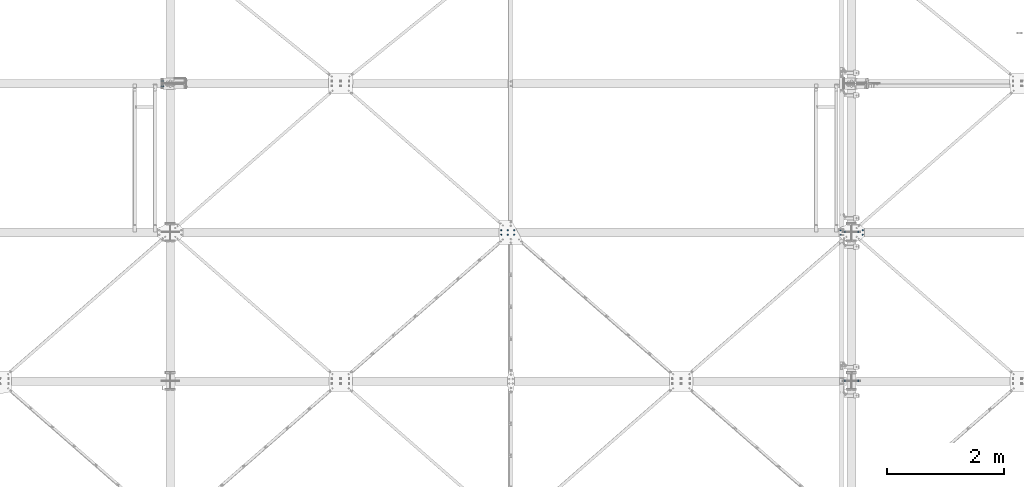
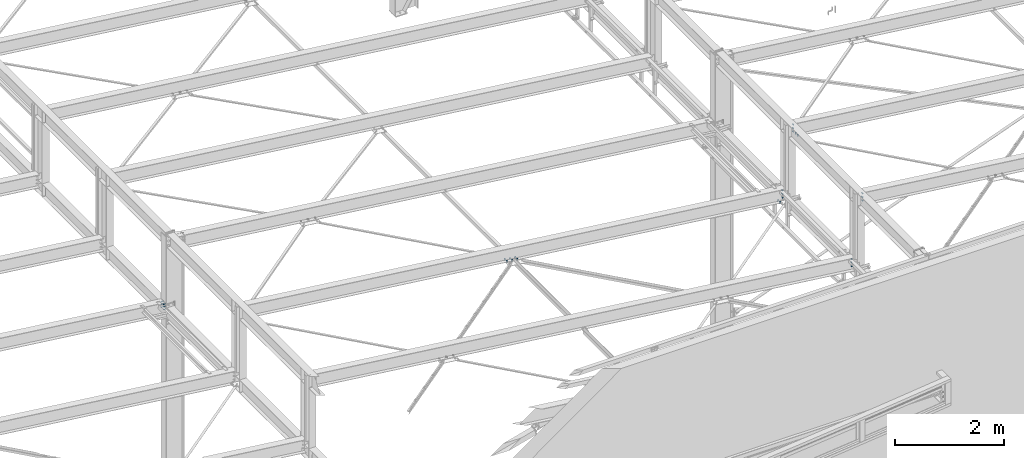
# One storey, part 112 of 3134: 8 mechanical fasteners, 5 elements without a shape of their own.
"""IFC2X3 building model written with IfcOpenShell, lengths in millimetres."""

from ifc_helpers import new_model, si_unit, frame, origin_with_axes, place, context, subcontext, project, spatial, faceted_brep, source, transform, mapped, material, type_object, element, aggregate, save


model = new_model("IFC2X3")

# Units and contexts
model_context = context("Model", 3, precision=1e-05, world=origin_with_axes())
body_context = subcontext(model_context, "Body", "Model", "MODEL_VIEW")
ifc_project = project(units=[si_unit("LENGTHUNIT", "METRE", prefix="MILLI"), si_unit("AREAUNIT", "SQUARE_METRE"), si_unit("VOLUMEUNIT", "CUBIC_METRE"), si_unit("MASSUNIT", "GRAM", prefix="KILO"), si_unit("TIMEUNIT", "SECOND"), si_unit("PLANEANGLEUNIT", "RADIAN"), si_unit("SOLIDANGLEUNIT", "STERADIAN"), si_unit("THERMODYNAMICTEMPERATUREUNIT", "DEGREE_CELSIUS"), si_unit("LUMINOUSINTENSITYUNIT", "LUMEN")], contexts=[model_context])

# Site, building, storey
site_placement = place(None, origin_with_axes())
site = spatial("IfcSite", under=ifc_project, at=site_placement, CompositionType="ELEMENT")
building_placement = place(site_placement, origin_with_axes())
building = spatial("IfcBuilding", under=site, at=building_placement, Name="Undefined", CompositionType="ELEMENT")
storey_placement = place(building_placement, origin_with_axes())
storey = spatial("IfcBuildingStorey", under=building, at=storey_placement, Name="Undefined", CompositionType="ELEMENT", Elevation=0.0)

# Assembly, mechanical fastener
assembly_1_placement = place(storey_placement, origin_with_axes())
assembly_1 = element("IfcElementAssembly", 1, at=assembly_1_placement, inside=storey, Name="IPE400", AssemblyPlace="NOTDEFINED", PredefinedType="RIGID_FRAME")
ifc_material = material(Name="8.8")
mechanical_fastener_type = type_object("IfcMechanicalFastenerType", Name="Bolt assembly")
shared_shape_1 = source(origin_with_axes(), body_context, "Body", "Brep", [
    faceted_brep([(13.856406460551, -33.499999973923, 0.0), (6.92820323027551, -33.499999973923, 12.0), (-6.92820323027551, -33.499999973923, 12.0), (-13.856406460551, -33.499999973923, 1.69692038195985e-15), (-6.92820323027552, -33.499999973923, -12.0), (6.9282032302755, -33.499999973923, -12.0), (6.9282032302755, -23.499999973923, -12.0), (-6.92820323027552, -23.499999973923, -12.0), (-13.856406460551, -23.499999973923, 1.69692038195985e-15), (-6.92820323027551, -23.499999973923, 12.0), (6.92820323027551, -23.499999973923, 12.0), (13.856406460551, -23.499999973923, 0.0), (8.0, -23.499999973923, 0.0), (6.92820323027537, -23.499999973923, 4.00000000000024), (3.99999999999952, -23.499999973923, 6.92820323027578), (-8.29068785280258e-13, -23.499999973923, 8.0), (-4.00000000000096, -23.499999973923, 6.92820323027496), (-6.9282032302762, -23.499999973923, 3.99999999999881), (-8.0, -23.499999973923, -1.65813757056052e-12), (-6.92820323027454, -23.499999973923, -4.00000000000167), (-3.99999999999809, -23.499999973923, -6.92820323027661), (2.47832457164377e-12, -23.499999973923, -8.0), (4.00000000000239, -23.499999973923, -6.92820323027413), (6.92820323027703, -23.499999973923, -3.99999999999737), (6.92820323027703, 21.500000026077, -3.99999999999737), (4.00000000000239, 21.500000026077, -6.92820323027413), (2.47832457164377e-12, 21.500000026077, -8.0), (-3.99999999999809, 21.500000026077, -6.92820323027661), (-6.92820323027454, 21.500000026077, -4.00000000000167), (-8.0, 21.500000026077, -1.65813757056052e-12), (-6.9282032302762, 21.500000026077, 3.99999999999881), (-4.00000000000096, 21.500000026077, 6.92820323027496), (-8.29068785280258e-13, 21.500000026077, 8.0), (3.99999999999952, 21.500000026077, 6.92820323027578), (6.92820323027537, 21.500000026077, 4.00000000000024), (8.0, 21.500000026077, 0.0), (13.856406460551, 0.0, 0.0), (6.92820323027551, 0.0, 12.0), (-6.92820323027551, 0.0, 12.0), (-13.856406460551, 0.0, 1.69692038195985e-15), (-6.92820323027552, 0.0, -12.0), (6.9282032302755, 0.0, -12.0), (6.9282032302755, 12.9999996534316, -12.0), (-6.92820323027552, 12.9999996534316, -12.0), (-13.856406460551, 12.9999996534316, 1.69692038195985e-15), (-6.92820323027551, 12.9999996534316, 12.0), (6.92820323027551, 12.9999996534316, 12.0), (13.856406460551, 12.9999996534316, 0.0)], [[[0, 1, 2, 3, 4, 5]], [[6, 7, 8, 9, 10, 11]], [[0, 11, 10, 1]], [[1, 10, 9, 2]], [[2, 9, 8, 3]], [[3, 8, 7, 4]], [[4, 7, 6, 5]], [[5, 6, 11, 0]], [[12, 13, 14, 15, 16, 17, 18, 19, 20, 21, 22, 23]], [[24, 25, 26, 27, 28, 29, 30, 31, 32, 33, 34, 35]], [[12, 35, 34, 13]], [[13, 34, 33, 14]], [[14, 33, 32, 15]], [[15, 32, 31, 16]], [[16, 31, 30, 17]], [[17, 30, 29, 18]], [[18, 29, 28, 19]], [[19, 28, 27, 20]], [[20, 27, 26, 21]], [[21, 26, 25, 22]], [[22, 25, 24, 23]], [[23, 24, 35, 12]], [[36, 37, 38, 39, 40, 41]], [[42, 43, 44, 45, 46, 47]], [[36, 47, 46, 37]], [[37, 46, 45, 38]], [[38, 45, 44, 39]], [[39, 44, 43, 40]], [[40, 43, 42, 41]], [[41, 42, 47, 36]]]),
    faceted_brep([(9.0, -10.1000003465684, 0.0), (7.79422863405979, -10.1000003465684, 4.50000000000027), (4.49999999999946, -10.1000003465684, 7.79422863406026), (-9.3270238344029e-13, -10.1000003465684, 9.0), (-4.50000000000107, -10.1000003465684, 7.79422863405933), (-7.79422863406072, -10.1000003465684, 4.49999999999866), (-9.0, -10.1000003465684, -1.86540476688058e-12), (-7.79422863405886, -10.1000003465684, -4.50000000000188), (-4.49999999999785, -10.1000003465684, -7.79422863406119), (2.78811514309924e-12, -10.1000003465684, -9.0), (4.50000000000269, -10.1000003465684, -7.7942286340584), (7.79422863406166, -10.1000003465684, -4.49999999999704), (7.79422863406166, -3.46568413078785e-07, -4.49999999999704), (4.50000000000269, -3.46568413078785e-07, -7.7942286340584), (2.78811514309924e-12, -3.46568413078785e-07, -9.0), (-4.49999999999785, -3.46568413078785e-07, -7.79422863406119), (-7.79422863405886, -3.46568413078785e-07, -4.50000000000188), (-9.0, -3.46568413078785e-07, -1.86540476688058e-12), (-7.79422863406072, -3.46568413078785e-07, 4.49999999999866), (-4.50000000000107, -3.46568413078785e-07, 7.79422863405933), (-9.3270238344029e-13, -3.46568413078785e-07, 9.0), (4.49999999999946, -3.46568413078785e-07, 7.79422863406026), (7.79422863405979, -3.46568413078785e-07, 4.50000000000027), (9.0, -3.46568413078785e-07, 0.0), (9.0, -23.399999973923, 0.0), (7.79422863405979, -23.399999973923, 4.50000000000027), (4.49999999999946, -23.399999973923, 7.79422863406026), (-9.3270238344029e-13, -23.399999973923, 9.0), (-4.50000000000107, -23.399999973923, 7.79422863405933), (-7.79422863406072, -23.399999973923, 4.49999999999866), (-9.0, -23.399999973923, -1.86540476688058e-12), (-7.79422863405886, -23.399999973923, -4.50000000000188), (-4.49999999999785, -23.399999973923, -7.79422863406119), (2.78811514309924e-12, -23.399999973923, -9.0), (4.50000000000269, -23.399999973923, -7.7942286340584), (7.79422863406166, -23.399999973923, -4.49999999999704), (7.79422863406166, -9.89999997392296, -4.49999999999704), (4.50000000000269, -9.89999997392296, -7.7942286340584), (2.78811514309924e-12, -9.89999997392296, -9.0), (-4.49999999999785, -9.89999997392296, -7.79422863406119), (-7.79422863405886, -9.89999997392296, -4.50000000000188), (-9.0, -9.89999997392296, -1.86540476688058e-12), (-7.79422863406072, -9.89999997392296, 4.49999999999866), (-4.50000000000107, -9.89999997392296, 7.79422863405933), (-9.3270238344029e-13, -9.89999997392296, 9.0), (4.49999999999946, -9.89999997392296, 7.79422863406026), (7.79422863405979, -9.89999997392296, 4.50000000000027), (9.0, -9.89999997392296, 0.0)], [[[0, 1, 2, 3, 4, 5, 6, 7, 8, 9, 10, 11]], [[12, 13, 14, 15, 16, 17, 18, 19, 20, 21, 22, 23]], [[0, 23, 22, 1]], [[1, 22, 21, 2]], [[2, 21, 20, 3]], [[3, 20, 19, 4]], [[4, 19, 18, 5]], [[5, 18, 17, 6]], [[6, 17, 16, 7]], [[7, 16, 15, 8]], [[8, 15, 14, 9]], [[9, 14, 13, 10]], [[10, 13, 12, 11]], [[11, 12, 23, 0]], [[24, 25, 26, 27, 28, 29, 30, 31, 32, 33, 34, 35]], [[36, 37, 38, 39, 40, 41, 42, 43, 44, 45, 46, 47]], [[24, 47, 46, 25]], [[25, 46, 45, 26]], [[26, 45, 44, 27]], [[27, 44, 43, 28]], [[28, 43, 42, 29]], [[29, 42, 41, 30]], [[30, 41, 40, 31]], [[31, 40, 39, 32]], [[32, 39, 38, 33]], [[33, 38, 37, 34]], [[34, 37, 36, 35]], [[35, 36, 47, 24]]]),
])
mechanical_fastener_1_placement = place(assembly_1_placement, frame((32380.0000000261, 7650.0, 4360.7105303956), z_axis=(0.0, 1.0, 0.0), x_axis=(0.0, 0.0, -1.0)))
mechanical_fastener_1 = element("IfcMechanicalFastener", 2, at=mechanical_fastener_1_placement, type_object=mechanical_fastener_type, material=ifc_material, Name="Bolt assembly", NominalDiameter=16.0, NominalLength=45.0, context=body_context, shape_type="MappedRepresentation", body=[
    mapped(shared_shape_1, transform((0.0, 0.0, -45.0))),
    mapped(shared_shape_1, transform((60.0, 0.0, -45.0))),
    mapped(shared_shape_1, transform((120.0, 0.0, -45.0))),
    mapped(shared_shape_1, transform((0.0, 0.0, 45.0))),
    mapped(shared_shape_1, transform((60.0, 0.0, 45.0))),
    mapped(shared_shape_1, transform((120.0, 0.0, 45.0))),
])
aggregate(assembly_1, [mechanical_fastener_1])

# Assembly, mechanical fasteners
assembly_2_placement = place(storey_placement, origin_with_axes())
assembly_2 = element("IfcElementAssembly", 3, at=assembly_2_placement, inside=storey, Name="300", AssemblyPlace="NOTDEFINED", PredefinedType="RIGID_FRAME")
shared_shape_2 = source(origin_with_axes(), body_context, "Body", "Brep", [
    faceted_brep([(13.856406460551, -19.199990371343, 0.0), (6.92820323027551, -19.199990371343, 12.0), (-6.92820323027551, -19.199990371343, 12.0), (-13.856406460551, -19.199990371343, 1.69692038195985e-15), (-6.92820323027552, -19.199990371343, -12.0), (6.9282032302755, -19.199990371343, -12.0), (6.9282032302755, -9.19999037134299, -12.0), (-6.92820323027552, -9.19999037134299, -12.0), (-13.856406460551, -9.19999037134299, 1.69692038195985e-15), (-6.92820323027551, -9.19999037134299, 12.0), (6.92820323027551, -9.19999037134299, 12.0), (13.856406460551, -9.19999037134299, 0.0), (8.0, -9.19999037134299, 0.0), (6.92820323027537, -9.19999037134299, 4.00000000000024), (3.99999999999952, -9.19999037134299, 6.92820323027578), (-8.29068785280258e-13, -9.19999037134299, 8.0), (-4.00000000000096, -9.19999037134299, 6.92820323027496), (-6.9282032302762, -9.19999037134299, 3.99999999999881), (-8.0, -9.19999037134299, -1.65813757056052e-12), (-6.92820323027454, -9.19999037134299, -4.00000000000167), (-3.99999999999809, -9.19999037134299, -6.92820323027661), (2.47832457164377e-12, -9.19999037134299, -8.0), (4.00000000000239, -9.19999037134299, -6.92820323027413), (6.92820323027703, -9.19999037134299, -3.99999999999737), (6.92820323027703, 25.800009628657, -3.99999999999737), (4.00000000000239, 25.800009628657, -6.92820323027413), (2.47832457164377e-12, 25.800009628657, -8.0), (-3.99999999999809, 25.800009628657, -6.92820323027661), (-6.92820323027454, 25.800009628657, -4.00000000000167), (-8.0, 25.800009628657, -1.65813757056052e-12), (-6.9282032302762, 25.800009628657, 3.99999999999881), (-4.00000000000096, 25.800009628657, 6.92820323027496), (-8.29068785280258e-13, 25.800009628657, 8.0), (3.99999999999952, 25.800009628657, 6.92820323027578), (6.92820323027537, 25.800009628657, 4.00000000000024), (8.0, 25.800009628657, 0.0), (13.856406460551, 8.00000637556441, 0.0), (6.92820323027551, 8.00000637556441, 12.0), (-6.92820323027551, 8.00000637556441, 12.0), (-13.856406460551, 8.00000637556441, 1.69692038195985e-15), (-6.92820323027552, 8.00000637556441, -12.0), (6.9282032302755, 8.00000637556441, -12.0), (6.9282032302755, 21.0000063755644, -12.0), (-6.92820323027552, 21.0000063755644, -12.0), (-13.856406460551, 21.0000063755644, 1.69692038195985e-15), (-6.92820323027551, 21.0000063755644, 12.0), (6.92820323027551, 21.0000063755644, 12.0), (13.856406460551, 21.0000063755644, 0.0)], [[[0, 1, 2, 3, 4, 5]], [[6, 7, 8, 9, 10, 11]], [[0, 11, 10, 1]], [[1, 10, 9, 2]], [[2, 9, 8, 3]], [[3, 8, 7, 4]], [[4, 7, 6, 5]], [[5, 6, 11, 0]], [[12, 13, 14, 15, 16, 17, 18, 19, 20, 21, 22, 23]], [[24, 25, 26, 27, 28, 29, 30, 31, 32, 33, 34, 35]], [[12, 35, 34, 13]], [[13, 34, 33, 14]], [[14, 33, 32, 15]], [[15, 32, 31, 16]], [[16, 31, 30, 17]], [[17, 30, 29, 18]], [[18, 29, 28, 19]], [[19, 28, 27, 20]], [[20, 27, 26, 21]], [[21, 26, 25, 22]], [[22, 25, 24, 23]], [[23, 24, 35, 12]], [[36, 37, 38, 39, 40, 41]], [[42, 43, 44, 45, 46, 47]], [[36, 47, 46, 37]], [[37, 46, 45, 38]], [[38, 45, 44, 39]], [[39, 44, 43, 40]], [[40, 43, 42, 41]], [[41, 42, 47, 36]]]),
    faceted_brep([(9.0, -0.1, 0.0), (7.79422863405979, -0.1, 4.50000000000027), (4.49999999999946, -0.1, 7.79422863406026), (-9.3270238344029e-13, -0.1, 9.0), (-4.50000000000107, -0.1, 7.79422863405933), (-7.79422863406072, -0.1, 4.49999999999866), (-9.0, -0.1, -1.86540476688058e-12), (-7.79422863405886, -0.1, -4.50000000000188), (-4.49999999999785, -0.1, -7.79422863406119), (2.78811514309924e-12, -0.1, -9.0), (4.50000000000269, -0.1, -7.7942286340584), (7.79422863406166, -0.1, -4.49999999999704), (7.79422863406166, 8.00000000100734, -4.49999999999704), (4.50000000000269, 8.00000000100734, -7.7942286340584), (2.78811514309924e-12, 8.00000000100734, -9.0), (-4.49999999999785, 8.00000000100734, -7.79422863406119), (-7.79422863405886, 8.00000000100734, -4.50000000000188), (-9.0, 8.00000000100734, -1.86540476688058e-12), (-7.79422863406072, 8.00000000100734, 4.49999999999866), (-4.50000000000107, 8.00000000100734, 7.79422863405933), (-9.3270238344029e-13, 8.00000000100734, 9.0), (4.49999999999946, 8.00000000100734, 7.79422863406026), (7.79422863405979, 8.00000000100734, 4.50000000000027), (9.0, 8.00000000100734, 0.0), (9.0, -9.09999037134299, 0.0), (7.79422863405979, -9.09999037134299, 4.50000000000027), (4.49999999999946, -9.09999037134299, 7.79422863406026), (-9.3270238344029e-13, -9.09999037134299, 9.0), (-4.50000000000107, -9.09999037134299, 7.79422863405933), (-7.79422863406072, -9.09999037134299, 4.49999999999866), (-9.0, -9.09999037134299, -1.86540476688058e-12), (-7.79422863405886, -9.09999037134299, -4.50000000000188), (-4.49999999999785, -9.09999037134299, -7.79422863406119), (2.78811514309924e-12, -9.09999037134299, -9.0), (4.50000000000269, -9.09999037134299, -7.7942286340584), (7.79422863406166, -9.09999037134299, -4.49999999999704), (7.79422863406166, 0.100000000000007, -4.49999999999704), (4.50000000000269, 0.100000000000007, -7.7942286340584), (2.78811514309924e-12, 0.100000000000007, -9.0), (-4.49999999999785, 0.100000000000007, -7.79422863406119), (-7.79422863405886, 0.100000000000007, -4.50000000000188), (-9.0, 0.100000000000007, -1.86540476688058e-12), (-7.79422863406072, 0.100000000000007, 4.49999999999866), (-4.50000000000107, 0.100000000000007, 7.79422863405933), (-9.3270238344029e-13, 0.100000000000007, 9.0), (4.49999999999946, 0.100000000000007, 7.79422863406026), (7.79422863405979, 0.100000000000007, 4.50000000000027), (9.0, 0.100000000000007, 0.0)], [[[0, 1, 2, 3, 4, 5, 6, 7, 8, 9, 10, 11]], [[12, 13, 14, 15, 16, 17, 18, 19, 20, 21, 22, 23]], [[0, 23, 22, 1]], [[1, 22, 21, 2]], [[2, 21, 20, 3]], [[3, 20, 19, 4]], [[4, 19, 18, 5]], [[5, 18, 17, 6]], [[6, 17, 16, 7]], [[7, 16, 15, 8]], [[8, 15, 14, 9]], [[9, 14, 13, 10]], [[10, 13, 12, 11]], [[11, 12, 23, 0]], [[24, 25, 26, 27, 28, 29, 30, 31, 32, 33, 34, 35]], [[36, 37, 38, 39, 40, 41, 42, 43, 44, 45, 46, 47]], [[24, 47, 46, 25]], [[25, 46, 45, 26]], [[26, 45, 44, 27]], [[27, 44, 43, 28]], [[28, 43, 42, 29]], [[29, 42, 41, 30]], [[30, 41, 40, 31]], [[31, 40, 39, 32]], [[32, 39, 38, 33]], [[33, 38, 37, 34]], [[34, 37, 36, 35]], [[35, 36, 47, 24]]]),
])
mechanical_fastener_2_placement = place(assembly_2_placement, frame((38308.3906860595, 5062.0, 4813.40180628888), z_axis=(-0.992623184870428, 0.0, 0.121240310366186), x_axis=(0.0, 1.0, 0.0)))
mechanical_fastener_2 = element("IfcMechanicalFastener", 4, at=mechanical_fastener_2_placement, type_object=mechanical_fastener_type, material=ifc_material, Name="Bolt assembly", NominalDiameter=16.0, NominalLength=35.0, context=body_context, shape_type="MappedRepresentation", body=[
    mapped(shared_shape_2, transform((0.0, 1.8644641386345e-10, -109.999999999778))),
    mapped(shared_shape_2, transform((76.0, 1.8644641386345e-10, -109.999999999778))),
    mapped(shared_shape_2, transform((0.0, 0.0, 0.0))),
    mapped(shared_shape_2, transform((76.0, 0.0, 0.0))),
    mapped(shared_shape_2, transform((0.0, -1.8644641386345e-10, 109.999999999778))),
    mapped(shared_shape_2, transform((76.0, -1.8644641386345e-10, 109.999999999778))),
])
mechanical_fastener_3_placement = place(assembly_2_placement, frame((44011.7539628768, 5137.99951302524, 4116.78546253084), z_axis=(0.992623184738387, -1.63108538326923e-05, -0.12124031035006), x_axis=(-1.62000016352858e-05, -0.999999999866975, 1.90000018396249e-06)))
mechanical_fastener_3 = element("IfcMechanicalFastener", 5, at=mechanical_fastener_3_placement, type_object=mechanical_fastener_type, material=ifc_material, Name="Bolt assembly", NominalDiameter=16.0, NominalLength=35.0, context=body_context, shape_type="MappedRepresentation", body=[
    mapped(shared_shape_2, transform((0.0, 0.0, 0.0))),
    mapped(shared_shape_2, transform((76.0, 0.0, 0.0))),
])

# Assembly, mechanical fastener
assembly_3_placement = place(storey_placement, origin_with_axes())
assembly_3 = element("IfcElementAssembly", 6, at=assembly_3_placement, inside=storey, Name="300", AssemblyPlace="NOTDEFINED", PredefinedType="RIGID_FRAME")
mechanical_fastener_4_placement = place(assembly_3_placement, frame((44389.2248162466, 5137.99951302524, 5496.68063423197), z_axis=(0.992623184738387, 1.63108538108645e-05, -0.12124031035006), x_axis=(1.62000016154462e-05, -0.999999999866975, -1.90000018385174e-06)))
mechanical_fastener_4 = element("IfcMechanicalFastener", 7, at=mechanical_fastener_4_placement, type_object=mechanical_fastener_type, material=ifc_material, Name="Bolt assembly", NominalDiameter=16.0, NominalLength=35.0, context=body_context, shape_type="MappedRepresentation", body=[
    mapped(shared_shape_2, transform((0.0, 0.0, 0.0))),
    mapped(shared_shape_2, transform((76.0, 0.0, 0.0))),
])

# Mechanical fastener
shared_shape_3 = source(origin_with_axes(), body_context, "Body", "Brep", [
    faceted_brep([(13.856406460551, -13.0499999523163, 0.0), (6.92820323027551, -13.0499999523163, 12.0), (-6.92820323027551, -13.0499999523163, 12.0), (-13.856406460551, -13.0499999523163, 1.69692038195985e-15), (-6.92820323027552, -13.0499999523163, -12.0), (6.9282032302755, -13.0499999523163, -12.0), (6.9282032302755, -3.04999995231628, -12.0), (-6.92820323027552, -3.04999995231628, -12.0), (-13.856406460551, -3.04999995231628, 1.69692038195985e-15), (-6.92820323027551, -3.04999995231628, 12.0), (6.92820323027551, -3.04999995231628, 12.0), (13.856406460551, -3.04999995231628, 0.0), (8.0, -3.04999995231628, 0.0), (6.92820323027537, -3.04999995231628, 4.00000000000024), (3.99999999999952, -3.04999995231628, 6.92820323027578), (-8.29068785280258e-13, -3.04999995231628, 8.0), (-4.00000000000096, -3.04999995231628, 6.92820323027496), (-6.9282032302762, -3.04999995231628, 3.99999999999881), (-8.0, -3.04999995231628, -1.65813757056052e-12), (-6.92820323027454, -3.04999995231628, -4.00000000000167), (-3.99999999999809, -3.04999995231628, -6.92820323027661), (2.47832457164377e-12, -3.04999995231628, -8.0), (4.00000000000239, -3.04999995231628, -6.92820323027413), (6.92820323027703, -3.04999995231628, -3.99999999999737), (6.92820323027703, 31.9500000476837, -3.99999999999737), (4.00000000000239, 31.9500000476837, -6.92820323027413), (2.47832457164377e-12, 31.9500000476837, -8.0), (-3.99999999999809, 31.9500000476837, -6.92820323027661), (-6.92820323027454, 31.9500000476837, -4.00000000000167), (-8.0, 31.9500000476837, -1.65813757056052e-12), (-6.9282032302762, 31.9500000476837, 3.99999999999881), (-4.00000000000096, 31.9500000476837, 6.92820323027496), (-8.29068785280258e-13, 31.9500000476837, 8.0), (3.99999999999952, 31.9500000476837, 6.92820323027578), (6.92820323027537, 31.9500000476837, 4.00000000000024), (8.0, 31.9500000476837, 0.0), (13.856406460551, 13.0500000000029, 0.0), (6.92820323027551, 13.0500000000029, 12.0), (-6.92820323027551, 13.0500000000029, 12.0), (-13.856406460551, 13.0500000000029, 1.69692038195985e-15), (-6.92820323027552, 13.0500000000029, -12.0), (6.9282032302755, 13.0500000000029, -12.0), (6.9282032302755, 26.0500000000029, -12.0), (-6.92820323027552, 26.0500000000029, -12.0), (-13.856406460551, 26.0500000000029, 1.69692038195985e-15), (-6.92820323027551, 26.0500000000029, 12.0), (6.92820323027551, 26.0500000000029, 12.0), (13.856406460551, 26.0500000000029, 0.0)], [[[0, 1, 2, 3, 4, 5]], [[6, 7, 8, 9, 10, 11]], [[0, 11, 10, 1]], [[1, 10, 9, 2]], [[2, 9, 8, 3]], [[3, 8, 7, 4]], [[4, 7, 6, 5]], [[5, 6, 11, 0]], [[12, 13, 14, 15, 16, 17, 18, 19, 20, 21, 22, 23]], [[24, 25, 26, 27, 28, 29, 30, 31, 32, 33, 34, 35]], [[12, 35, 34, 13]], [[13, 34, 33, 14]], [[14, 33, 32, 15]], [[15, 32, 31, 16]], [[16, 31, 30, 17]], [[17, 30, 29, 18]], [[18, 29, 28, 19]], [[19, 28, 27, 20]], [[20, 27, 26, 21]], [[21, 26, 25, 22]], [[22, 25, 24, 23]], [[23, 24, 35, 12]], [[36, 37, 38, 39, 40, 41]], [[42, 43, 44, 45, 46, 47]], [[36, 47, 46, 37]], [[37, 46, 45, 38]], [[38, 45, 44, 39]], [[39, 44, 43, 40]], [[40, 43, 42, 41]], [[41, 42, 47, 36]]]),
    faceted_brep([(9.0, 2.95000000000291, 0.0), (7.79422863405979, 2.95000000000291, 4.50000000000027), (4.49999999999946, 2.95000000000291, 7.79422863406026), (-9.3270238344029e-13, 2.95000000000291, 9.0), (-4.50000000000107, 2.95000000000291, 7.79422863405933), (-7.79422863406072, 2.95000000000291, 4.49999999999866), (-9.0, 2.95000000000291, -1.86540476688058e-12), (-7.79422863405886, 2.95000000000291, -4.50000000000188), (-4.49999999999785, 2.95000000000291, -7.79422863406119), (2.78811514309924e-12, 2.95000000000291, -9.0), (4.50000000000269, 2.95000000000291, -7.7942286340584), (7.79422863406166, 2.95000000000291, -4.49999999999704), (7.79422863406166, 13.0500000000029, -4.49999999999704), (4.50000000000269, 13.0500000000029, -7.7942286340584), (2.78811514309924e-12, 13.0500000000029, -9.0), (-4.49999999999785, 13.0500000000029, -7.79422863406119), (-7.79422863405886, 13.0500000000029, -4.50000000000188), (-9.0, 13.0500000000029, -1.86540476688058e-12), (-7.79422863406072, 13.0500000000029, 4.49999999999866), (-4.50000000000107, 13.0500000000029, 7.79422863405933), (-9.3270238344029e-13, 13.0500000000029, 9.0), (4.49999999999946, 13.0500000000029, 7.79422863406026), (7.79422863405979, 13.0500000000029, 4.50000000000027), (9.0, 13.0500000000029, 0.0), (9.0, -2.94999995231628, 0.0), (7.79422863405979, -2.94999995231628, 4.50000000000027), (4.49999999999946, -2.94999995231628, 7.79422863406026), (-9.3270238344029e-13, -2.94999995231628, 9.0), (-4.50000000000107, -2.94999995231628, 7.79422863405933), (-7.79422863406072, -2.94999995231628, 4.49999999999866), (-9.0, -2.94999995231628, -1.86540476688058e-12), (-7.79422863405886, -2.94999995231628, -4.50000000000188), (-4.49999999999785, -2.94999995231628, -7.79422863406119), (2.78811514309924e-12, -2.94999995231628, -9.0), (4.50000000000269, -2.94999995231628, -7.7942286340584), (7.79422863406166, -2.94999995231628, -4.49999999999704), (7.79422863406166, 3.14999995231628, -4.49999999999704), (4.50000000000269, 3.14999995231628, -7.7942286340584), (2.78811514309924e-12, 3.14999995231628, -9.0), (-4.49999999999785, 3.14999995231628, -7.79422863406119), (-7.79422863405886, 3.14999995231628, -4.50000000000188), (-9.0, 3.14999995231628, -1.86540476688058e-12), (-7.79422863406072, 3.14999995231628, 4.49999999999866), (-4.50000000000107, 3.14999995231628, 7.79422863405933), (-9.3270238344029e-13, 3.14999995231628, 9.0), (4.49999999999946, 3.14999995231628, 7.79422863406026), (7.79422863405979, 3.14999995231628, 4.50000000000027), (9.0, 3.14999995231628, 0.0)], [[[0, 1, 2, 3, 4, 5, 6, 7, 8, 9, 10, 11]], [[12, 13, 14, 15, 16, 17, 18, 19, 20, 21, 22, 23]], [[0, 23, 22, 1]], [[1, 22, 21, 2]], [[2, 21, 20, 3]], [[3, 20, 19, 4]], [[4, 19, 18, 5]], [[5, 18, 17, 6]], [[6, 17, 16, 7]], [[7, 16, 15, 8]], [[8, 15, 14, 9]], [[9, 14, 13, 10]], [[10, 13, 12, 11]], [[11, 12, 23, 0]], [[24, 25, 26, 27, 28, 29, 30, 31, 32, 33, 34, 35]], [[36, 37, 38, 39, 40, 41, 42, 43, 44, 45, 46, 47]], [[24, 47, 46, 25]], [[25, 46, 45, 26]], [[26, 45, 44, 27]], [[27, 44, 43, 28]], [[28, 43, 42, 29]], [[29, 42, 41, 30]], [[30, 41, 40, 31]], [[31, 40, 39, 32]], [[32, 39, 38, 33]], [[33, 38, 37, 34]], [[34, 37, 36, 35]], [[35, 36, 47, 24]]]),
])
mechanical_fastener_5_placement = place(assembly_2_placement, frame((44085.0, 5100.0, 4337.44269270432), z_axis=(1.0, 0.0, 0.0), x_axis=(0.0, 0.0, -1.0)))
mechanical_fastener_5 = element("IfcMechanicalFastener", 8, at=mechanical_fastener_5_placement, type_object=mechanical_fastener_type, material=ifc_material, Name="Bolt assembly", NominalDiameter=16.0, NominalLength=35.0, context=body_context, shape_type="MappedRepresentation", body=[
    mapped(shared_shape_3, transform((0.0, 0.0, 0.0))),
    mapped(shared_shape_3, transform((80.0, 0.0, 0.0))),
    mapped(shared_shape_3, transform((160.0, 0.0, 0.0))),
])

aggregate(assembly_2, [mechanical_fastener_5, mechanical_fastener_2, mechanical_fastener_3])

# Assembly, mechanical fastener
assembly_4_placement = place(storey_placement, origin_with_axes())
assembly_4 = element("IfcElementAssembly", 9, at=assembly_4_placement, inside=storey, Name="300", AssemblyPlace="NOTDEFINED", PredefinedType="RIGID_FRAME")
mechanical_fastener_6_placement = place(assembly_4_placement, frame((44085.0, 2550.0, 4337.44269270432), z_axis=(1.0, 0.0, 0.0), x_axis=(0.0, 0.0, -1.0)))
mechanical_fastener_6 = element("IfcMechanicalFastener", 10, at=mechanical_fastener_6_placement, type_object=mechanical_fastener_type, material=ifc_material, Name="Bolt assembly", NominalDiameter=16.0, NominalLength=35.0, context=body_context, shape_type="MappedRepresentation", body=[
    mapped(shared_shape_3, transform((0.0, 0.0, 0.0))),
    mapped(shared_shape_3, transform((80.0, 0.0, 0.0))),
    mapped(shared_shape_3, transform((160.0, 0.0, 0.0))),
])
aggregate(assembly_4, [mechanical_fastener_6])

assembly_5_placement = place(storey_placement, origin_with_axes())
assembly_5 = element("IfcElementAssembly", 11, at=assembly_5_placement, inside=storey, Name="300", AssemblyPlace="NOTDEFINED", PredefinedType="RIGID_FRAME")
mechanical_fastener_7_placement = place(assembly_5_placement, frame((44315.0, 2550.0, 5735.35014950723), z_axis=(1.0, 0.0, 0.0), x_axis=(0.0, 0.0, -1.0)))
mechanical_fastener_7 = element("IfcMechanicalFastener", 12, at=mechanical_fastener_7_placement, type_object=mechanical_fastener_type, material=ifc_material, Name="Bolt assembly", NominalDiameter=16.0, NominalLength=35.0, context=body_context, shape_type="MappedRepresentation", body=[
    mapped(shared_shape_3, transform((0.0, 0.0, 0.0))),
    mapped(shared_shape_3, transform((80.0, 0.0, 0.0))),
    mapped(shared_shape_3, transform((160.0, 0.0, 0.0))),
])
aggregate(assembly_5, [mechanical_fastener_7])

# Mechanical fastener
mechanical_fastener_8_placement = place(assembly_3_placement, frame((44315.0, 5100.0, 5735.35014950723), z_axis=(1.0, 0.0, 0.0), x_axis=(0.0, 0.0, -1.0)))
mechanical_fastener_8 = element("IfcMechanicalFastener", 13, at=mechanical_fastener_8_placement, type_object=mechanical_fastener_type, material=ifc_material, Name="Bolt assembly", NominalDiameter=16.0, NominalLength=35.0, context=body_context, shape_type="MappedRepresentation", body=[
    mapped(shared_shape_3, transform((0.0, 0.0, 0.0))),
    mapped(shared_shape_3, transform((80.0, 0.0, 0.0))),
    mapped(shared_shape_3, transform((160.0, 0.0, 0.0))),
])

aggregate(assembly_3, [mechanical_fastener_8, mechanical_fastener_4])

save(model, "model.ifc")
